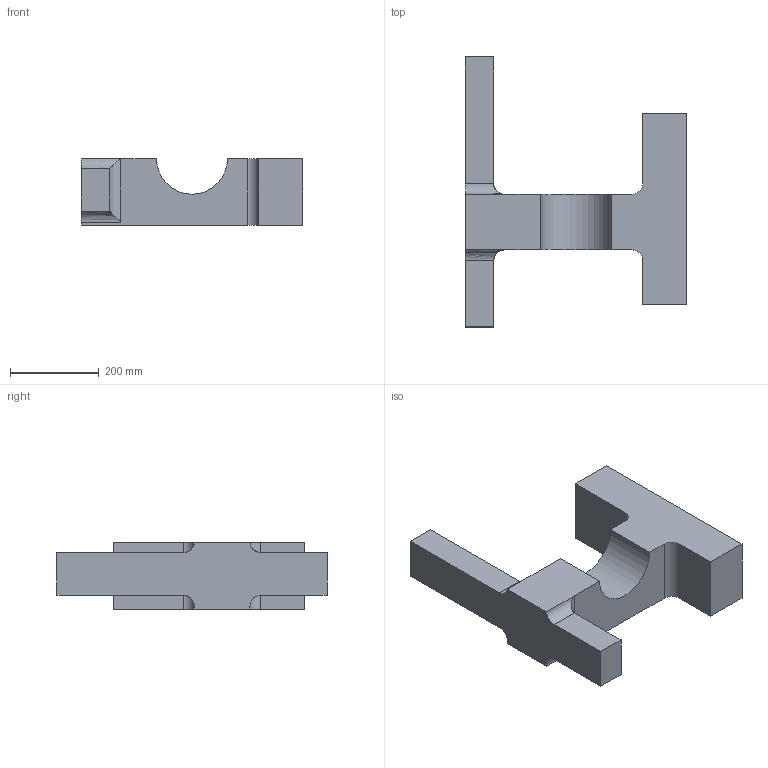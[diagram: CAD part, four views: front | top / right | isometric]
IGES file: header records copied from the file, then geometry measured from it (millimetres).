
Start section:  PTC IGES file: hex_to_tet_mesh_proe.igs
Global section: file name: hex_to_tet_mesh_proe.igs; native system: Pro/ENGINEER by Parametric Technology Corporation; preprocessor: 2006010; author: Administrator; organization: Unknown; date: 20070306.101827; units: millimetre
Bounding box: 500 x 609 x 150 mm (x, y, z)
Volume: 15790271.8 mm3; surface area: 605527.9 mm2
Topology: 1 solids, 1 shells, 28 faces, 74 edges, 48 vertices
Faces by surface type: bspline 19, revolution 9
